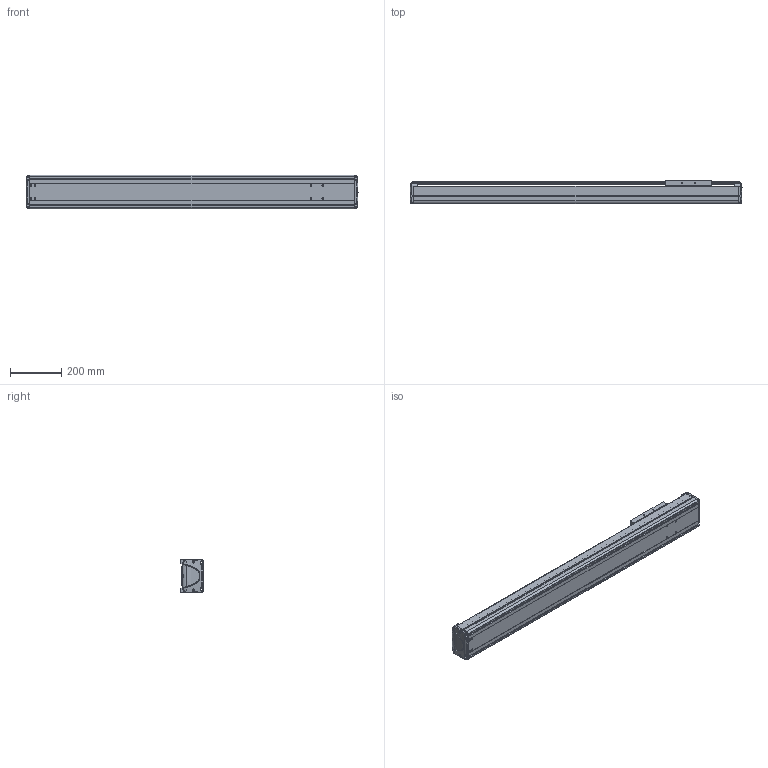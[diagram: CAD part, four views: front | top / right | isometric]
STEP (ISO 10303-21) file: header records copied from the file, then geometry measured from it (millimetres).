
FILE_DESCRIPTION((''),'2;1');
FILE_NAME('BE30E-ST-L_N-95_IGS_PRT','2017-06-17T',(' '),(''),'PRO/ENGINEER BY PARAMETRIC TECHNOLOGY CORPORATION, 2015030','PRO/ENGINEER BY PARAMETRIC TECHNOLOGY CORPORATION, 2015030','');
FILE_SCHEMA(('CONFIG_CONTROL_DESIGN'));
Length unit declared in the file: millimetre
Products named in the file (1): BE30E-ST-L_N-95_IGS_PRT
Bounding box: 1290 x 89.8 x 130 mm (x, y, z)
Volume: 3979360.5 mm3; surface area: 1556258.7 mm2
Topology: 3 solids, 94 shells, 1402 faces, 3787 edges, 2481 vertices
Faces by surface type: cylinder 651, plane 600, bspline 55, torus 42, cone 30, sphere 24
Entity records: 47237 total; most frequent: CARTESIAN_POINT 11821, DIRECTION 7312, ORIENTED_EDGE 7172, EDGE_CURVE 3767, AXIS2_PLACEMENT_3D 2658, VERTEX_POINT 2481, VECTOR 1996, LINE 1996
